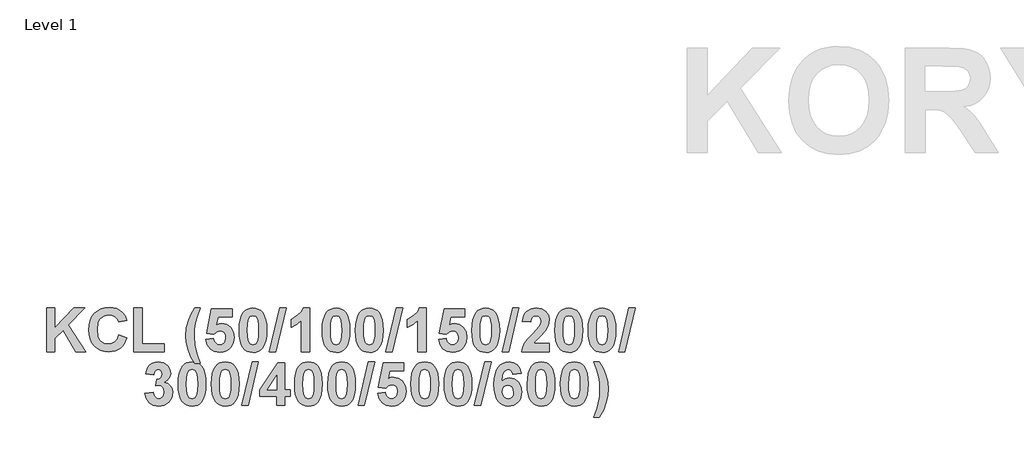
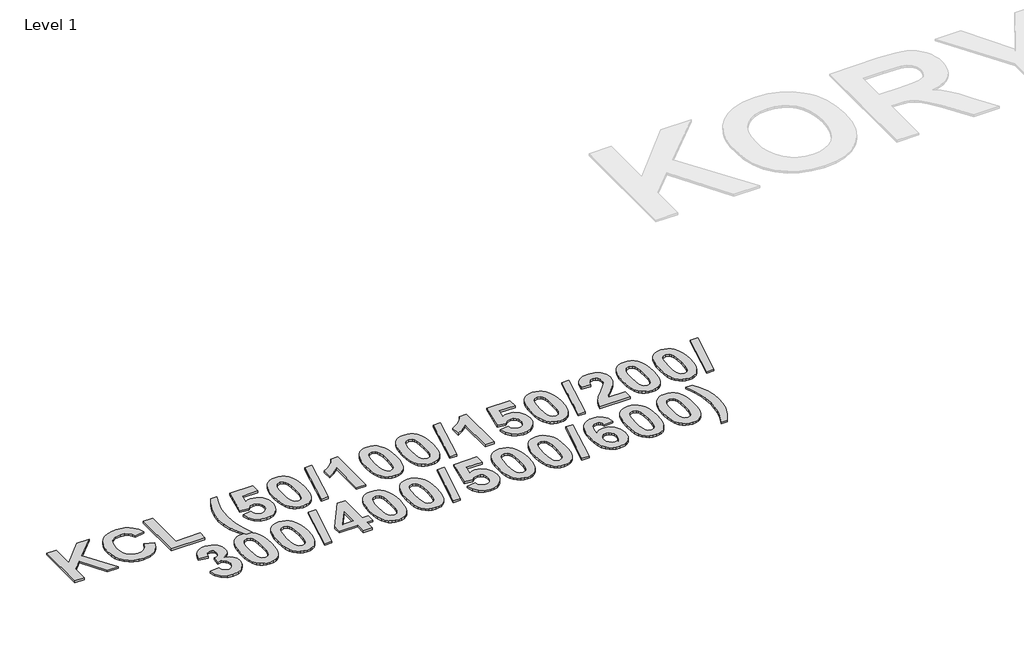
# One storey, part 22 of 42: 1 proxy.
"""IFC4 building model written with IfcOpenShell, lengths in millimetres."""

from ifc_helpers import new_model, si_unit, origin, origin_with_axes, place, context, project, spatial, polyline, outline, extrude, element, save

model = new_model("IFC4")

# Units and contexts
model_context = context("Model", 3, world=origin())
ifc_project = project(units=[si_unit("LENGTHUNIT", "METRE", prefix="MILLI")], contexts=[model_context])

# Site, building, storey
site = spatial("IfcSite", under=ifc_project)
building = spatial("IfcBuilding", under=site)
storey = spatial("IfcBuildingStorey", under=building, Name="Level 1", Elevation=0.0)

# Proxy
placement = place(None, origin())
element("IfcBuildingElementProxy", 1, Name="300mm Arial 2", ObjectType="300mm Arial 2", at=placement, inside=storey, context=model_context, shape_type="SweptSolid", body=[
    extrude(outline(polyline([(-32214.3228423, 21266.2760859), (-32214.3228423, 21521.3409359), (-32165.7390614, 21521.3409359), (-32165.7390614, 21405.0688143), (-32056.299034, 21521.3409359), (-31989.6228554, 21521.3409359), (-32086.157816, 21423.9203335), (-31985.574207, 21266.2760859), (-32042.381805, 21266.2760859), (-32117.7246216, 21391.9739671), (-32165.7390614, 21343.4534463), (-32165.7390614, 21266.2760859), (-32214.3228423, 21266.2760859)])), origin_with_axes(), (0.0, 0.0, 1.0), 10.0),
    extrude(outline(polyline([(-31793.2634074, 21363.4436478), (-31744.6796265, 21347.2490542), (-31760.0043933, 21311.4675423), (-31770.5253439, 21297.5325215), (-31782.952006, 21286.2346574), (-31813.3168691, 21271.2657288), (-31850.8933872, 21266.2760859), (-31875.2208615, 21268.4071616), (-31897.2788785, 21274.8003886), (-31917.0674384, 21285.455767), (-31934.5865411, 21300.3732968), (-31948.9228683, 21318.9875905), (-31959.1631021, 21340.7332606), (-31965.3072424, 21365.6103073), (-31967.3552891, 21393.6187305), (-31965.2894505, 21423.1533044), (-31959.0919345, 21449.192756), (-31948.7627411, 21471.7370854), (-31934.3018705, 21490.7862924), (-31916.4723978, 21505.9252326), (-31896.0373985, 21516.7387614), (-31872.9968725, 21523.2268786), (-31847.3508198, 21525.3895843), (-31824.9251032, 21523.6064394), (-31804.7134912, 21518.2570045), (-31786.7159838, 21509.3412797), (-31770.932581, 21496.8592651), (-31755.6078142, 21476.3471674), (-31744.6796265, 21448.4652645), (-31793.2634074, 21440.3679677), (-31800.7043804, 21457.1714401), (-31813.4117593, 21470.0053393), (-31830.4050121, 21478.1421737), (-31850.7036068, 21480.8544518), (-31878.1505963, 21475.9280691), (-31899.888359, 21461.1489208), (-31908.1497367, 21449.7719816), (-31914.0507209, 21435.3466947), (-31918.7715082, 21397.3510783), (-31914.1930562, 21357.275785), (-31908.4699912, 21342.2910414), (-31900.4577001, 21330.6748997), (-31879.3841689, 21315.7771388), (-31852.7911911, 21310.8112185), (-31832.7140069, 21313.9821326), (-31815.6258639, 21323.4948748), (-31802.2384386, 21339.8238963), (-31793.2634074, 21363.4436478)])), origin_with_axes(), (0.0, 0.0, 1.0), 10.0),
    extrude(outline(polyline([(-31704.1931423, 21266.2760859), (-31704.1931423, 21521.3409359), (-31655.6093614, 21521.3409359), (-31655.6093614, 21310.8112185), (-31526.0526122, 21310.8112185), (-31526.0526122, 21266.2760859), (-31704.1931423, 21266.2760859)])), origin_with_axes(), (0.0, 0.0, 1.0), 10.0),
    extrude(outline(polyline([(-31315.5228947, 21197.4490629), (-31347.912082, 21197.4490629), (-31370.5829316, 21237.1210729), (-31387.1017335, 21278.327141), (-31397.1838169, 21319.6280993), (-31400.5445114, 21359.5847798), (-31396.4326028, 21406.9824333), (-31384.0968772, 21451.7547913), (-31367.9022836, 21488.0344767), (-31347.912082, 21521.3409359), (-31315.5228947, 21521.3409359), (-31333.0854887, 21474.1014328), (-31344.1481042, 21434.4847754), (-31350.0075739, 21397.6041188), (-31351.9607304, 21358.5726177), (-31347.2794807, 21301.92317), (-31334.437674, 21246.8552256), (-31315.5228947, 21197.4490629)])), origin_with_axes(), (0.0, 0.0, 1.0), 10.0),
    extrude(outline(polyline([(-31283.1337074, 21338.0763351), (-31238.5985749, 21343.2004058), (-31234.4550363, 21328.1286795), (-31226.1995891, 21316.5678904), (-31215.0974361, 21309.2139001), (-31202.4137797, 21306.7625701), (-31188.2197877, 21309.364143), (-31176.3822356, 21317.1688617), (-31168.3877365, 21330.2083563), (-31165.7229035, 21348.5142568), (-31168.1979561, 21365.6735675), (-31175.623114, 21377.9302179), (-31187.0178452, 21385.2842082), (-31201.4016176, 21387.7355383), (-31220.2215067, 21382.6747278), (-31236.9538115, 21367.4922962), (-31279.085059, 21373.7550493), (-31250.7445201, 21517.2922875), (-31129.2850678, 21517.2922875), (-31129.2850678, 21468.7085066), (-31211.4599785, 21468.7085066), (-31221.2652989, 21422.3388302), (-31205.7823817, 21429.7877107), (-31189.9515338, 21432.2706708), (-31161.8324054, 21426.5219064), (-31138.3312665, 21409.2756131), (-31122.4371585, 21382.8566007), (-31117.1391225, 21349.589679), (-31121.5515167, 21320.6639839), (-31134.7886992, 21294.9961856), (-31148.0061129, 21280.6598583), (-31163.556244, 21270.4196245), (-31181.4390924, 21264.2754843), (-31201.6546581, 21262.2274375), (-31232.6600301, 21267.3673232), (-31257.3552039, 21282.7869802), (-31274.5698671, 21306.8890903), (-31283.1337074, 21338.0763351)])), origin_with_axes(), (0.0, 0.0, 1.0), 10.0),
    extrude(outline(polyline([(-31007.8256154, 21521.3409359), (-30990.693981, 21519.6961725), (-30975.5471333, 21514.7618823), (-30962.3850722, 21506.5380652), (-30951.2077977, 21495.0247212), (-30940.5524193, 21476.8967398), (-30932.9414348, 21453.6367802), (-30928.374844, 21425.2448425), (-30926.8526471, 21391.7209266), (-30928.3827516, 21358.2286407), (-30932.9730648, 21329.8050729), (-30940.623587, 21306.4502232), (-30951.334318, 21288.1640914), (-30962.4562399, 21276.8168053), (-30975.5787634, 21268.711601), (-30990.7018885, 21263.8484784), (-31007.8256154, 21262.2274375), (-31025.133192, 21264.0066287), (-31040.6813461, 21269.3442023), (-31054.4700779, 21278.2401583), (-31066.4993873, 21290.6944967), (-31076.2552857, 21307.7154258), (-31083.2237845, 21330.311154), (-31087.4048839, 21358.4816813), (-31088.7985836, 21392.2270076), (-31087.2684792, 21425.5532356), (-31082.6781659, 21453.8581907), (-31075.0276438, 21477.1418728), (-31064.3169128, 21495.404282), (-31053.1949909, 21506.7515681), (-31040.0724674, 21514.8567724), (-31024.9493422, 21519.7198951), (-31007.8256154, 21521.3409359)]), holes=[polyline([(-31007.8256154, 21476.8058034), (-31024.020209, 21471.4603223), (-31030.3462222, 21463.9877192), (-31035.0274719, 21452.2608724), (-31038.91797, 21428.1113172), (-31040.2148027, 21391.7209266), (-31039.0603053, 21355.8128945), (-31035.5968131, 21333.2369351), (-31030.3699447, 21319.9839375), (-31023.9253188, 21312.044791), (-31007.8256154, 21306.7625701), (-30991.6310217, 21312.1080512), (-30985.3050086, 21319.5806542), (-30980.6237589, 21331.3075011), (-30976.7332608, 21355.330536), (-30975.4364281, 21391.7209266), (-30976.5909255, 21427.5894211), (-30980.0544177, 21450.173288), (-30985.281286, 21463.4658232), (-30991.7259119, 21471.4603223), (-31007.8256154, 21476.8058034)])]), origin_with_axes(), (0.0, 0.0, 1.0), 10.0),
    extrude(outline(polyline([(-30911.5436953, 21266.2760859), (-30850.8139691, 21521.3409359), (-30813.4904916, 21521.3409359), (-30874.2202178, 21266.2760859), (-30911.5436953, 21266.2760859)])), origin_with_axes(), (0.0, 0.0, 1.0), 10.0),
    extrude(outline(polyline([(-30675.8364455, 21266.2760859), (-30724.4202265, 21266.2760859), (-30724.4202265, 21448.5917848), (-30752.4760948, 21424.7110851), (-30785.1499527, 21407.9787804), (-30785.1499527, 21456.5625613), (-30765.6816472, 21465.6482977), (-30744.6002084, 21480.3800008), (-30726.1440651, 21499.3975778), (-30714.551646, 21521.3409359), (-30675.8364455, 21521.3409359), (-30675.8364455, 21266.2760859)])), origin_with_axes(), (0.0, 0.0, 1.0), 10.0),
    extrude(outline(polyline([(-30521.9878059, 21521.3409359), (-30504.8561715, 21519.6961725), (-30489.7093238, 21514.7618823), (-30476.5472627, 21506.5380652), (-30465.3699882, 21495.0247212), (-30454.7146098, 21476.8967398), (-30447.1036253, 21453.6367802), (-30442.5370345, 21425.2448425), (-30441.0148376, 21391.7209266), (-30442.5449421, 21358.2286407), (-30447.1352553, 21329.8050729), (-30454.7857775, 21306.4502232), (-30465.4965085, 21288.1640914), (-30476.6184304, 21276.8168053), (-30489.7409539, 21268.711601), (-30504.864079, 21263.8484784), (-30521.9878059, 21262.2274375), (-30539.2953825, 21264.0066287), (-30554.8435366, 21269.3442023), (-30568.6322684, 21278.2401583), (-30580.6615778, 21290.6944967), (-30590.4174762, 21307.7154258), (-30597.385975, 21330.311154), (-30601.5670744, 21358.4816813), (-30602.9607741, 21392.2270076), (-30601.4306697, 21425.5532356), (-30596.8403564, 21453.8581907), (-30589.1898343, 21477.1418728), (-30578.4791033, 21495.404282), (-30567.3571814, 21506.7515681), (-30554.2346579, 21514.8567724), (-30539.1115327, 21519.7198951), (-30521.9878059, 21521.3409359)]), holes=[polyline([(-30521.9878059, 21476.8058034), (-30538.1823995, 21471.4603223), (-30544.5084127, 21463.9877192), (-30549.1896624, 21452.2608724), (-30553.0801605, 21428.1113172), (-30554.3769932, 21391.7209266), (-30553.2224958, 21355.8128945), (-30549.7590036, 21333.2369351), (-30544.5321352, 21319.9839375), (-30538.0875093, 21312.044791), (-30521.9878059, 21306.7625701), (-30505.7932122, 21312.1080512), (-30499.4671991, 21319.5806542), (-30494.7859494, 21331.3075011), (-30490.8954513, 21355.330536), (-30489.5986186, 21391.7209266), (-30490.753116, 21427.5894211), (-30494.2166082, 21450.173288), (-30499.4434765, 21463.4658232), (-30505.8881024, 21471.4603223), (-30521.9878059, 21476.8058034)])]), origin_with_axes(), (0.0, 0.0, 1.0), 10.0),
    extrude(outline(polyline([(-30327.6526821, 21521.3409359), (-30310.5210477, 21519.6961725), (-30295.3742, 21514.7618823), (-30282.2121389, 21506.5380652), (-30271.0348644, 21495.0247212), (-30260.379486, 21476.8967398), (-30252.7685015, 21453.6367802), (-30248.2019107, 21425.2448425), (-30246.6797138, 21391.7209266), (-30248.2098182, 21358.2286407), (-30252.8001315, 21329.8050729), (-30260.4506537, 21306.4502232), (-30271.1613847, 21288.1640914), (-30282.2833065, 21276.8168053), (-30295.4058301, 21268.711601), (-30310.5289552, 21263.8484784), (-30327.6526821, 21262.2274375), (-30344.9602587, 21264.0066287), (-30360.5084128, 21269.3442023), (-30374.2971446, 21278.2401583), (-30386.326454, 21290.6944967), (-30396.0823524, 21307.7154258), (-30403.0508512, 21330.311154), (-30407.2319506, 21358.4816813), (-30408.6256503, 21392.2270076), (-30407.0955459, 21425.5532356), (-30402.5052326, 21453.8581907), (-30394.8547105, 21477.1418728), (-30384.1439795, 21495.404282), (-30373.0220576, 21506.7515681), (-30359.8995341, 21514.8567724), (-30344.7764089, 21519.7198951), (-30327.6526821, 21521.3409359)]), holes=[polyline([(-30327.6526821, 21476.8058034), (-30343.8472757, 21471.4603223), (-30350.1732889, 21463.9877192), (-30354.8545386, 21452.2608724), (-30358.7450367, 21428.1113172), (-30360.0418694, 21391.7209266), (-30358.887372, 21355.8128945), (-30355.4238798, 21333.2369351), (-30350.1970114, 21319.9839375), (-30343.7523855, 21312.044791), (-30327.6526821, 21306.7625701), (-30311.4580884, 21312.1080512), (-30305.1320753, 21319.5806542), (-30300.4508255, 21331.3075011), (-30296.5603275, 21355.330536), (-30295.2634948, 21391.7209266), (-30296.4179922, 21427.5894211), (-30299.8814844, 21450.173288), (-30305.1083527, 21463.4658232), (-30311.5529786, 21471.4603223), (-30327.6526821, 21476.8058034)])]), origin_with_axes(), (0.0, 0.0, 1.0), 10.0),
    extrude(outline(polyline([(-30231.370762, 21266.2760859), (-30170.6410358, 21521.3409359), (-30133.3175583, 21521.3409359), (-30194.0472845, 21266.2760859), (-30231.370762, 21266.2760859)])), origin_with_axes(), (0.0, 0.0, 1.0), 10.0),
    extrude(outline(polyline([(-29995.6635122, 21266.2760859), (-30044.2472932, 21266.2760859), (-30044.2472932, 21448.5917848), (-30072.3031615, 21424.7110851), (-30104.9770194, 21407.9787804), (-30104.9770194, 21456.5625613), (-30085.5087139, 21465.6482977), (-30064.4272751, 21480.3800008), (-30045.9711318, 21499.3975778), (-30034.3787127, 21521.3409359), (-29995.6635122, 21521.3409359), (-29995.6635122, 21266.2760859)])), origin_with_axes(), (0.0, 0.0, 1.0), 10.0),
    extrude(outline(polyline([(-29922.7878408, 21338.0763351), (-29878.2527083, 21343.2004058), (-29874.1091697, 21328.1286795), (-29865.8537225, 21316.5678904), (-29854.7515694, 21309.2139001), (-29842.0679131, 21306.7625701), (-29827.8739211, 21309.364143), (-29816.036369, 21317.1688617), (-29808.0418699, 21330.2083563), (-29805.3770369, 21348.5142568), (-29807.8520895, 21365.6735675), (-29815.2772474, 21377.9302179), (-29826.6719786, 21385.2842082), (-29841.055751, 21387.7355383), (-29859.8756401, 21382.6747278), (-29876.6079449, 21367.4922962), (-29918.7391924, 21373.7550493), (-29890.3986535, 21517.2922875), (-29768.9392011, 21517.2922875), (-29768.9392011, 21468.7085066), (-29851.1141119, 21468.7085066), (-29860.9194323, 21422.3388302), (-29845.4365151, 21429.7877107), (-29829.6056672, 21432.2706708), (-29801.4865388, 21426.5219064), (-29777.9853999, 21409.2756131), (-29762.0912919, 21382.8566007), (-29756.7932559, 21349.589679), (-29761.2056501, 21320.6639839), (-29774.4428326, 21294.9961856), (-29787.6602463, 21280.6598583), (-29803.2103774, 21270.4196245), (-29821.0932258, 21264.2754843), (-29841.3087915, 21262.2274375), (-29872.3141634, 21267.3673232), (-29897.0093373, 21282.7869802), (-29914.2240005, 21306.8890903), (-29922.7878408, 21338.0763351)])), origin_with_axes(), (0.0, 0.0, 1.0), 10.0),
    extrude(outline(polyline([(-29647.4797488, 21521.3409359), (-29630.3481144, 21519.6961725), (-29615.2012667, 21514.7618823), (-29602.0392056, 21506.5380652), (-29590.8619311, 21495.0247212), (-29580.2065527, 21476.8967398), (-29572.5955682, 21453.6367802), (-29568.0289774, 21425.2448425), (-29566.5067805, 21391.7209266), (-29568.0368849, 21358.2286407), (-29572.6271982, 21329.8050729), (-29580.2777204, 21306.4502232), (-29590.9884514, 21288.1640914), (-29602.1103732, 21276.8168053), (-29615.2328968, 21268.711601), (-29630.3560219, 21263.8484784), (-29647.4797488, 21262.2274375), (-29664.7873254, 21264.0066287), (-29680.3354795, 21269.3442023), (-29694.1242113, 21278.2401583), (-29706.1535207, 21290.6944967), (-29715.9094191, 21307.7154258), (-29722.8779179, 21330.311154), (-29727.0590172, 21358.4816813), (-29728.452717, 21392.2270076), (-29726.9226126, 21425.5532356), (-29722.3322993, 21453.8581907), (-29714.6817772, 21477.1418728), (-29703.9710461, 21495.404282), (-29692.8491243, 21506.7515681), (-29679.7266008, 21514.8567724), (-29664.6034756, 21519.7198951), (-29647.4797488, 21521.3409359)]), holes=[polyline([(-29647.4797488, 21476.8058034), (-29663.6743424, 21471.4603223), (-29670.0003556, 21463.9877192), (-29674.6816053, 21452.2608724), (-29678.5721034, 21428.1113172), (-29679.8689361, 21391.7209266), (-29678.7144387, 21355.8128945), (-29675.2509465, 21333.2369351), (-29670.0240781, 21319.9839375), (-29663.5794522, 21312.044791), (-29647.4797488, 21306.7625701), (-29631.2851551, 21312.1080512), (-29624.959142, 21319.5806542), (-29620.2778922, 21331.3075011), (-29616.3873942, 21355.330536), (-29615.0905615, 21391.7209266), (-29616.2450589, 21427.5894211), (-29619.7085511, 21450.173288), (-29624.9354194, 21463.4658232), (-29631.3800453, 21471.4603223), (-29647.4797488, 21476.8058034)])]), origin_with_axes(), (0.0, 0.0, 1.0), 10.0),
    extrude(outline(polyline([(-29551.1978287, 21266.2760859), (-29490.4681025, 21521.3409359), (-29453.144625, 21521.3409359), (-29513.8743512, 21266.2760859), (-29551.1978287, 21266.2760859)])), origin_with_axes(), (0.0, 0.0, 1.0), 10.0),
    extrude(outline(polyline([(-29275.0040948, 21314.8598669), (-29275.0040948, 21266.2760859), (-29436.9500313, 21266.2760859), (-29431.7785156, 21290.7814793), (-29421.4512991, 21313.942595), (-29402.2676642, 21340.1243819), (-29370.5268933, 21373.6917891), (-29332.9503752, 21414.4313138), (-29325.9285006, 21429.1392943), (-29323.5878758, 21443.6574945), (-29325.5568474, 21457.8040414), (-29331.4637621, 21468.2340556), (-29340.8341691, 21474.6628664), (-29353.1936173, 21476.8058034), (-29365.4660828, 21474.6944965), (-29374.9551025, 21468.3605758), (-29381.3443758, 21457.13981), (-29384.317602, 21440.3679677), (-29432.9013829, 21444.7961769), (-29424.298005, 21479.9450874), (-29416.6751592, 21493.1842468), (-29406.8382087, 21503.5332089), (-29382.2142026, 21516.8890042), (-29352.118195, 21521.3409359), (-29319.9820483, 21516.3512931), (-29295.5636375, 21501.3823644), (-29280.1439805, 21478.9961854), (-29275.0040948, 21451.7547913), (-29280.6342465, 21419.6186446), (-29298.4736036, 21387.6722782), (-29328.6803163, 21355.7891719), (-29356.419884, 21328.1444945), (-29365.5293429, 21314.8598669), (-29275.0040948, 21314.8598669)])), origin_with_axes(), (0.0, 0.0, 1.0), 10.0),
    extrude(outline(polyline([(-29161.6419393, 21521.3409359), (-29144.5103049, 21519.6961725), (-29129.3634572, 21514.7618823), (-29116.2013961, 21506.5380652), (-29105.0241216, 21495.0247212), (-29094.3687432, 21476.8967398), (-29086.7577587, 21453.6367802), (-29082.1911679, 21425.2448425), (-29080.668971, 21391.7209266), (-29082.1990754, 21358.2286407), (-29086.7893887, 21329.8050729), (-29094.4399109, 21306.4502232), (-29105.1506419, 21288.1640914), (-29116.2725637, 21276.8168053), (-29129.3950873, 21268.711601), (-29144.5182124, 21263.8484784), (-29161.6419393, 21262.2274375), (-29178.9495159, 21264.0066287), (-29194.49767, 21269.3442023), (-29208.2864018, 21278.2401583), (-29220.3157112, 21290.6944967), (-29230.0716096, 21307.7154258), (-29237.0401084, 21330.311154), (-29241.2212077, 21358.4816813), (-29242.6149075, 21392.2270076), (-29241.0848031, 21425.5532356), (-29236.4944898, 21453.8581907), (-29228.8439676, 21477.1418728), (-29218.1332366, 21495.404282), (-29207.0113148, 21506.7515681), (-29193.8887913, 21514.8567724), (-29178.7656661, 21519.7198951), (-29161.6419393, 21521.3409359)]), holes=[polyline([(-29161.6419393, 21476.8058034), (-29177.8365329, 21471.4603223), (-29184.1625461, 21463.9877192), (-29188.8437958, 21452.2608724), (-29192.7342939, 21428.1113172), (-29194.0311266, 21391.7209266), (-29192.8766292, 21355.8128945), (-29189.413137, 21333.2369351), (-29184.1862686, 21319.9839375), (-29177.7416427, 21312.044791), (-29161.6419393, 21306.7625701), (-29145.4473456, 21312.1080512), (-29139.1213325, 21319.5806542), (-29134.4400827, 21331.3075011), (-29130.5495847, 21355.330536), (-29129.252752, 21391.7209266), (-29130.4072494, 21427.5894211), (-29133.8707416, 21450.173288), (-29139.0976099, 21463.4658232), (-29145.5422358, 21471.4603223), (-29161.6419393, 21476.8058034)])]), origin_with_axes(), (0.0, 0.0, 1.0), 10.0),
    extrude(outline(polyline([(-28967.3068155, 21521.3409359), (-28950.1751811, 21519.6961725), (-28935.0283334, 21514.7618823), (-28921.8662723, 21506.5380652), (-28910.6889978, 21495.0247212), (-28900.0336194, 21476.8967398), (-28892.4226349, 21453.6367802), (-28887.8560441, 21425.2448425), (-28886.3338472, 21391.7209266), (-28887.8639516, 21358.2286407), (-28892.4542649, 21329.8050729), (-28900.1047871, 21306.4502232), (-28910.8155181, 21288.1640914), (-28921.9374399, 21276.8168053), (-28935.0599635, 21268.711601), (-28950.1830886, 21263.8484784), (-28967.3068155, 21262.2274375), (-28984.614392, 21264.0066287), (-29000.1625462, 21269.3442023), (-29013.951278, 21278.2401583), (-29025.9805874, 21290.6944967), (-29035.7364858, 21307.7154258), (-29042.7049846, 21330.311154), (-29046.8860839, 21358.4816813), (-29048.2797837, 21392.2270076), (-29046.7496793, 21425.5532356), (-29042.159366, 21453.8581907), (-29034.5088438, 21477.1418728), (-29023.7981128, 21495.404282), (-29012.676191, 21506.7515681), (-28999.5536675, 21514.8567724), (-28984.4305423, 21519.7198951), (-28967.3068155, 21521.3409359)]), holes=[polyline([(-28967.3068155, 21476.8058034), (-28983.5014091, 21471.4603223), (-28989.8274223, 21463.9877192), (-28994.508672, 21452.2608724), (-28998.3991701, 21428.1113172), (-28999.6960028, 21391.7209266), (-28998.5415054, 21355.8128945), (-28995.0780132, 21333.2369351), (-28989.8511448, 21319.9839375), (-28983.4065189, 21312.044791), (-28967.3068155, 21306.7625701), (-28951.1122218, 21312.1080512), (-28944.7862087, 21319.5806542), (-28940.1049589, 21331.3075011), (-28936.2144609, 21355.330536), (-28934.9176282, 21391.7209266), (-28936.0721256, 21427.5894211), (-28939.5356178, 21450.173288), (-28944.7624861, 21463.4658232), (-28951.207112, 21471.4603223), (-28967.3068155, 21476.8058034)])]), origin_with_axes(), (0.0, 0.0, 1.0), 10.0),
    extrude(outline(polyline([(-28871.0248954, 21266.2760859), (-28810.2951692, 21521.3409359), (-28772.9716917, 21521.3409359), (-28833.7014178, 21266.2760859), (-28871.0248954, 21266.2760859)])), origin_with_axes(), (0.0, 0.0, 1.0), 10.0),
    extrude(outline(polyline([(-31639.4147677, 21022.7918795), (-31590.8309868, 21028.4220312), (-31587.082824, 21012.7967787), (-31579.886984, 21001.3466949), (-31570.0342186, 20994.3248203), (-31558.3152792, 20991.9841955), (-31545.7423281, 20994.6648435), (-31535.3518515, 21002.7067877), (-31528.377422, 21015.2876464), (-31526.0526122, 21031.5850377), (-31528.1797341, 21047.0046948), (-31534.5610999, 21058.8501544), (-31544.010582, 21066.3939251), (-31555.342053, 21068.9085153), (-31574.6363931, 21065.3026878), (-31570.3979643, 21105.346351), (-31556.5677181, 21107.0860046), (-31546.4540046, 21113.3171276), (-31540.2624192, 21123.1857081), (-31538.1985574, 21135.8377344), (-31539.7405231, 21146.5840492), (-31544.3664202, 21154.910664), (-31551.5543527, 21160.2482376), (-31560.7824243, 21162.0274288), (-31570.1686463, 21159.963567), (-31578.0840703, 21153.7719816), (-31583.8486498, 21143.610823), (-31586.7823384, 21129.6382415), (-31635.3661193, 21136.9131566), (-31629.8071353, 21158.6509193), (-31621.9866015, 21175.5334668), (-31611.2640092, 21188.4464412), (-31596.9988496, 21198.2754841), (-31580.0055968, 21204.490792), (-31561.098725, 21206.5625613), (-31530.4491913, 21200.8217044), (-31517.6627372, 21193.6456332), (-31506.5684917, 21183.5991336), (-31493.8532053, 21163.577302), (-31489.6147765, 21141.0883253), (-31491.8881874, 21125.1428184), (-31498.7084204, 21110.8974275), (-31510.0754752, 21098.3521527), (-31525.989352, 21087.5069939), (-31506.1256708, 21079.9553157), (-31490.6901987, 21066.6627806), (-31480.7741731, 21048.799701), (-31477.4688312, 21027.5363893), (-31483.3283009, 20996.7682429), (-31500.9067099, 20970.8869416), (-31513.3432564, 20960.6328697), (-31527.2150171, 20953.3085326), (-31559.2641812, 20947.4490629), (-31589.5262466, 20952.6601162), (-31614.1423452, 20968.2932762), (-31631.3570085, 20992.3400337), (-31639.4147677, 21022.7918795)])), origin_with_axes(), (0.0, 0.0, 1.0), 10.0),
    extrude(outline(polyline([(-31364.1066757, 21206.5625613), (-31346.9750413, 21204.9177979), (-31331.8281936, 21199.9835076), (-31318.6661325, 21191.7596906), (-31307.488858, 21180.2463466), (-31296.8334796, 21162.1183652), (-31289.2224951, 21138.8584056), (-31284.6559043, 21110.4664679), (-31283.1337074, 21076.942552), (-31284.6638119, 21043.4502661), (-31289.2541251, 21015.0266983), (-31296.9046473, 20991.6718486), (-31307.6153783, 20973.3857168), (-31318.7373002, 20962.0384307), (-31331.8598237, 20953.9332264), (-31346.9829488, 20949.0701038), (-31364.1066757, 20947.4490629), (-31381.4142523, 20949.2282541), (-31396.9624064, 20954.5658277), (-31410.7511382, 20963.4617837), (-31422.7804476, 20975.9161221), (-31432.536346, 20992.9370512), (-31439.5048448, 21015.5327794), (-31443.6859442, 21043.7033067), (-31445.0796439, 21077.448633), (-31443.5495395, 21110.774861), (-31438.9592262, 21139.0798161), (-31431.3087041, 21162.3634982), (-31420.5979731, 21180.6259074), (-31409.4760512, 21191.9731935), (-31396.3535277, 21200.0783978), (-31381.2304025, 21204.9415205), (-31364.1066757, 21206.5625613)]), holes=[polyline([(-31364.1066757, 21162.0274288), (-31380.3012693, 21156.6819477), (-31386.6272825, 21149.2093446), (-31391.3085322, 21137.4824978), (-31395.1990303, 21113.3329426), (-31396.495863, 21076.942552), (-31395.3413656, 21041.0345199), (-31391.8778734, 21018.4585605), (-31386.651005, 21005.2055629), (-31380.2063791, 20997.2664164), (-31364.1066757, 20991.9841955), (-31347.912082, 20997.3296766), (-31341.5860689, 21004.8022796), (-31336.9048192, 21016.5291265), (-31333.0143211, 21040.5521614), (-31331.7174884, 21076.942552), (-31332.8719858, 21112.8110465), (-31336.335478, 21135.3949134), (-31341.5623463, 21148.6874486), (-31348.0069722, 21156.6819477), (-31364.1066757, 21162.0274288)])]), origin_with_axes(), (0.0, 0.0, 1.0), 10.0),
    extrude(outline(polyline([(-31169.7715519, 21206.5625613), (-31152.6399175, 21204.9177979), (-31137.4930698, 21199.9835076), (-31124.3310087, 21191.7596906), (-31113.1537342, 21180.2463466), (-31102.4983558, 21162.1183652), (-31094.8873713, 21138.8584056), (-31090.3207805, 21110.4664679), (-31088.7985836, 21076.942552), (-31090.3286881, 21043.4502661), (-31094.9190013, 21015.0266983), (-31102.5695235, 20991.6718486), (-31113.2802545, 20973.3857168), (-31124.4021764, 20962.0384307), (-31137.5246999, 20953.9332264), (-31152.647825, 20949.0701038), (-31169.7715519, 20947.4490629), (-31187.0791285, 20949.2282541), (-31202.6272826, 20954.5658277), (-31216.4160144, 20963.4617837), (-31228.4453238, 20975.9161221), (-31238.2012222, 20992.9370512), (-31245.169721, 21015.5327794), (-31249.3508204, 21043.7033067), (-31250.7445201, 21077.448633), (-31249.2144157, 21110.774861), (-31244.6241024, 21139.0798161), (-31236.9735803, 21162.3634982), (-31226.2628493, 21180.6259074), (-31215.1409274, 21191.9731935), (-31202.0184039, 21200.0783978), (-31186.8952787, 21204.9415205), (-31169.7715519, 21206.5625613)]), holes=[polyline([(-31169.7715519, 21162.0274288), (-31185.9661455, 21156.6819477), (-31192.2921587, 21149.2093446), (-31196.9734084, 21137.4824978), (-31200.8639065, 21113.3329426), (-31202.1607392, 21076.942552), (-31201.0062418, 21041.0345199), (-31197.5427496, 21018.4585605), (-31192.3158812, 21005.2055629), (-31185.8712553, 20997.2664164), (-31169.7715519, 20991.9841955), (-31153.5769582, 20997.3296766), (-31147.2509451, 21004.8022796), (-31142.5696954, 21016.5291265), (-31138.6791973, 21040.5521614), (-31137.3823646, 21076.942552), (-31138.536862, 21112.8110465), (-31142.0003542, 21135.3949134), (-31147.2272225, 21148.6874486), (-31153.6718484, 21156.6819477), (-31169.7715519, 21162.0274288)])]), origin_with_axes(), (0.0, 0.0, 1.0), 10.0),
    extrude(outline(polyline([(-31073.4896318, 20951.4977113), (-31012.7599056, 21206.5625613), (-30975.4364281, 21206.5625613), (-31036.1661543, 20951.4977113), (-31073.4896318, 20951.4977113)])), origin_with_axes(), (0.0, 0.0, 1.0), 10.0),
    extrude(outline(polyline([(-30870.1715693, 20951.4977113), (-30870.1715693, 21004.1301407), (-30967.3391313, 21004.1301407), (-30967.3391313, 21044.4268444), (-30863.7190359, 21202.5139129), (-30821.5877884, 21202.5139129), (-30821.5877884, 21044.6166248), (-30789.1986011, 21044.6166248), (-30789.1986011, 21004.1301407), (-30821.5877884, 21004.1301407), (-30821.5877884, 20951.4977113), (-30870.1715693, 20951.4977113)]), holes=[polyline([(-30870.1715693, 21044.6166248), (-30870.1715693, 21127.487397), (-30924.4487621, 21044.6166248), (-30870.1715693, 21044.6166248)])]), origin_with_axes(), (0.0, 0.0, 1.0), 10.0),
    extrude(outline(polyline([(-30683.9337424, 21206.5625613), (-30666.802108, 21204.9177979), (-30651.6552603, 21199.9835076), (-30638.4931992, 21191.7596906), (-30627.3159247, 21180.2463466), (-30616.6605463, 21162.1183652), (-30609.0495618, 21138.8584056), (-30604.482971, 21110.4664679), (-30602.9607741, 21076.942552), (-30604.4908786, 21043.4502661), (-30609.0811918, 21015.0266983), (-30616.731714, 20991.6718486), (-30627.442445, 20973.3857168), (-30638.5643669, 20962.0384307), (-30651.6868904, 20953.9332264), (-30666.8100155, 20949.0701038), (-30683.9337424, 20947.4490629), (-30701.241319, 20949.2282541), (-30716.7894731, 20954.5658277), (-30730.5782049, 20963.4617837), (-30742.6075143, 20975.9161221), (-30752.3634127, 20992.9370512), (-30759.3319115, 21015.5327794), (-30763.5130109, 21043.7033067), (-30764.9067106, 21077.448633), (-30763.3766062, 21110.774861), (-30758.7862929, 21139.0798161), (-30751.1357708, 21162.3634982), (-30740.4250398, 21180.6259074), (-30729.3031179, 21191.9731935), (-30716.1805944, 21200.0783978), (-30701.0574692, 21204.9415205), (-30683.9337424, 21206.5625613)]), holes=[polyline([(-30683.9337424, 21162.0274288), (-30700.128336, 21156.6819477), (-30706.4543492, 21149.2093446), (-30711.1355989, 21137.4824978), (-30715.026097, 21113.3329426), (-30716.3229297, 21076.942552), (-30715.1684323, 21041.0345199), (-30711.7049401, 21018.4585605), (-30706.4780717, 21005.2055629), (-30700.0334458, 20997.2664164), (-30683.9337424, 20991.9841955), (-30667.7391487, 20997.3296766), (-30661.4131356, 21004.8022796), (-30656.7318859, 21016.5291265), (-30652.8413878, 21040.5521614), (-30651.5445551, 21076.942552), (-30652.6990525, 21112.8110465), (-30656.1625447, 21135.3949134), (-30661.389413, 21148.6874486), (-30667.8340389, 21156.6819477), (-30683.9337424, 21162.0274288)])]), origin_with_axes(), (0.0, 0.0, 1.0), 10.0),
    extrude(outline(polyline([(-30489.5986186, 21206.5625613), (-30472.4669842, 21204.9177979), (-30457.3201365, 21199.9835076), (-30444.1580754, 21191.7596906), (-30432.9808009, 21180.2463466), (-30422.3254225, 21162.1183652), (-30414.714438, 21138.8584056), (-30410.1478472, 21110.4664679), (-30408.6256503, 21076.942552), (-30410.1557548, 21043.4502661), (-30414.746068, 21015.0266983), (-30422.3965902, 20991.6718486), (-30433.1073212, 20973.3857168), (-30444.2292431, 20962.0384307), (-30457.3517666, 20953.9332264), (-30472.4748917, 20949.0701038), (-30489.5986186, 20947.4490629), (-30506.9061952, 20949.2282541), (-30522.4543493, 20954.5658277), (-30536.2430811, 20963.4617837), (-30548.2723905, 20975.9161221), (-30558.0282889, 20992.9370512), (-30564.9967877, 21015.5327794), (-30569.1778871, 21043.7033067), (-30570.5715868, 21077.448633), (-30569.0414824, 21110.774861), (-30564.4511691, 21139.0798161), (-30556.800647, 21162.3634982), (-30546.089916, 21180.6259074), (-30534.9679941, 21191.9731935), (-30521.8454706, 21200.0783978), (-30506.7223454, 21204.9415205), (-30489.5986186, 21206.5625613)]), holes=[polyline([(-30489.5986186, 21162.0274288), (-30505.7932122, 21156.6819477), (-30512.1192254, 21149.2093446), (-30516.8004751, 21137.4824978), (-30520.6909732, 21113.3329426), (-30521.9878059, 21076.942552), (-30520.8333085, 21041.0345199), (-30517.3698163, 21018.4585605), (-30512.1429479, 21005.2055629), (-30505.698322, 20997.2664164), (-30489.5986186, 20991.9841955), (-30473.4040249, 20997.3296766), (-30467.0780118, 21004.8022796), (-30462.3967621, 21016.5291265), (-30458.506264, 21040.5521614), (-30457.2094313, 21076.942552), (-30458.3639287, 21112.8110465), (-30461.8274209, 21135.3949134), (-30467.0542892, 21148.6874486), (-30473.4989151, 21156.6819477), (-30489.5986186, 21162.0274288)])]), origin_with_axes(), (0.0, 0.0, 1.0), 10.0),
    extrude(outline(polyline([(-30393.3166985, 20951.4977113), (-30332.5869723, 21206.5625613), (-30295.2634948, 21206.5625613), (-30355.993221, 20951.4977113), (-30393.3166985, 20951.4977113)])), origin_with_axes(), (0.0, 0.0, 1.0), 10.0),
    extrude(outline(polyline([(-30279.0689011, 21023.2979605), (-30234.5337686, 21028.4220312), (-30230.39023, 21013.3503049), (-30222.1347828, 21001.7895158), (-30211.0326298, 20994.4355255), (-30198.3489734, 20991.9841955), (-30184.1549814, 20994.5857684), (-30172.3174293, 21002.3904871), (-30164.3229302, 21015.4299817), (-30161.6580972, 21033.7358822), (-30164.1331498, 21050.8951929), (-30171.5583077, 21063.1518433), (-30182.9530389, 21070.5058336), (-30197.3368113, 21072.9571637), (-30216.1567004, 21067.8963532), (-30232.8890052, 21052.7139216), (-30275.0202527, 21058.9766747), (-30246.6797138, 21202.5139129), (-30125.2202614, 21202.5139129), (-30125.2202614, 21153.930132), (-30207.3951722, 21153.930132), (-30217.2004926, 21107.5604556), (-30201.7175754, 21115.0093361), (-30185.8867275, 21117.4922962), (-30157.7675991, 21111.7435318), (-30134.2664602, 21094.4972385), (-30118.3723522, 21068.0782261), (-30113.0743162, 21034.8113044), (-30117.4867104, 21005.8856093), (-30130.7238929, 20980.217811), (-30143.9413066, 20965.8814837), (-30159.4914377, 20955.6412499), (-30177.3742861, 20949.4971097), (-30197.5898518, 20947.4490629), (-30228.5952237, 20952.5889486), (-30253.2903976, 20968.0086056), (-30270.5050608, 20992.1107157), (-30279.0689011, 21023.2979605)])), origin_with_axes(), (0.0, 0.0, 1.0), 10.0),
    extrude(outline(polyline([(-30003.7608091, 21206.5625613), (-29986.6291747, 21204.9177979), (-29971.482327, 21199.9835076), (-29958.3202659, 21191.7596906), (-29947.1429914, 21180.2463466), (-29936.487613, 21162.1183652), (-29928.8766285, 21138.8584056), (-29924.3100377, 21110.4664679), (-29922.7878408, 21076.942552), (-29924.3179452, 21043.4502661), (-29928.9082585, 21015.0266983), (-29936.5587807, 20991.6718486), (-29947.2695117, 20973.3857168), (-29958.3914335, 20962.0384307), (-29971.5139571, 20953.9332264), (-29986.6370822, 20949.0701038), (-30003.7608091, 20947.4490629), (-30021.0683857, 20949.2282541), (-30036.6165398, 20954.5658277), (-30050.4052716, 20963.4617837), (-30062.434581, 20975.9161221), (-30072.1904794, 20992.9370512), (-30079.1589782, 21015.5327794), (-30083.3400775, 21043.7033067), (-30084.7337773, 21077.448633), (-30083.2036729, 21110.774861), (-30078.6133596, 21139.0798161), (-30070.9628375, 21162.3634982), (-30060.2521064, 21180.6259074), (-30049.1301846, 21191.9731935), (-30036.0076611, 21200.0783978), (-30020.8845359, 21204.9415205), (-30003.7608091, 21206.5625613)]), holes=[polyline([(-30003.7608091, 21162.0274288), (-30019.9554027, 21156.6819477), (-30026.2814159, 21149.2093446), (-30030.9626656, 21137.4824978), (-30034.8531637, 21113.3329426), (-30036.1499964, 21076.942552), (-30034.995499, 21041.0345199), (-30031.5320068, 21018.4585605), (-30026.3051384, 21005.2055629), (-30019.8605125, 20997.2664164), (-30003.7608091, 20991.9841955), (-29987.5662154, 20997.3296766), (-29981.2402023, 21004.8022796), (-29976.5589525, 21016.5291265), (-29972.6684545, 21040.5521614), (-29971.3716218, 21076.942552), (-29972.5261192, 21112.8110465), (-29975.9896114, 21135.3949134), (-29981.2164797, 21148.6874486), (-29987.6611056, 21156.6819477), (-30003.7608091, 21162.0274288)])]), origin_with_axes(), (0.0, 0.0, 1.0), 10.0),
    extrude(outline(polyline([(-29809.4256853, 21206.5625613), (-29792.2940509, 21204.9177979), (-29777.1472032, 21199.9835076), (-29763.9851421, 21191.7596906), (-29752.8078676, 21180.2463466), (-29742.1524892, 21162.1183652), (-29734.5415047, 21138.8584056), (-29729.9749139, 21110.4664679), (-29728.452717, 21076.942552), (-29729.9828214, 21043.4502661), (-29734.5731347, 21015.0266983), (-29742.2236569, 20991.6718486), (-29752.9343879, 20973.3857168), (-29764.0563097, 20962.0384307), (-29777.1788333, 20953.9332264), (-29792.3019584, 20949.0701038), (-29809.4256853, 20947.4490629), (-29826.7332619, 20949.2282541), (-29842.281416, 20954.5658277), (-29856.0701478, 20963.4617837), (-29868.0994572, 20975.9161221), (-29877.8553556, 20992.9370512), (-29884.8238544, 21015.5327794), (-29889.0049537, 21043.7033067), (-29890.3986535, 21077.448633), (-29888.8685491, 21110.774861), (-29884.2782358, 21139.0798161), (-29876.6277137, 21162.3634982), (-29865.9169826, 21180.6259074), (-29854.7950608, 21191.9731935), (-29841.6725373, 21200.0783978), (-29826.5494121, 21204.9415205), (-29809.4256853, 21206.5625613)]), holes=[polyline([(-29809.4256853, 21162.0274288), (-29825.6202789, 21156.6819477), (-29831.9462921, 21149.2093446), (-29836.6275418, 21137.4824978), (-29840.5180399, 21113.3329426), (-29841.8148726, 21076.942552), (-29840.6603752, 21041.0345199), (-29837.196883, 21018.4585605), (-29831.9700146, 21005.2055629), (-29825.5253887, 20997.2664164), (-29809.4256853, 20991.9841955), (-29793.2310916, 20997.3296766), (-29786.9050785, 21004.8022796), (-29782.2238287, 21016.5291265), (-29778.3333307, 21040.5521614), (-29777.036498, 21076.942552), (-29778.1909954, 21112.8110465), (-29781.6544876, 21135.3949134), (-29786.8813559, 21148.6874486), (-29793.3259818, 21156.6819477), (-29809.4256853, 21162.0274288)])]), origin_with_axes(), (0.0, 0.0, 1.0), 10.0),
    extrude(outline(polyline([(-29713.1437652, 20951.4977113), (-29652.414039, 21206.5625613), (-29615.0905615, 21206.5625613), (-29675.8202877, 20951.4977113), (-29713.1437652, 20951.4977113)])), origin_with_axes(), (0.0, 0.0, 1.0), 10.0),
    extrude(outline(polyline([(-29440.9986797, 21138.8742207), (-29489.5824607, 21133.6868899), (-29492.5556869, 21146.2835636), (-29498.1858386, 21155.1004444), (-29506.1882452, 21160.2956827), (-29516.2782361, 21162.0274288), (-29529.8791644, 21158.6667343), (-29541.2027279, 21148.5846508), (-29549.5056202, 21127.7483451), (-29554.0445346, 21092.1249835), (-29534.022703, 21108.1139818), (-29509.6359223, 21113.4436478), (-29481.809372, 21107.750236), (-29458.3003257, 21090.6700005), (-29442.2876049, 21064.5910113), (-29436.9500313, 21031.9013384), (-29442.4062177, 20997.4641043), (-29449.2264506, 20983.0744013), (-29458.7747767, 20970.570641), (-29470.4660397, 20960.4549506), (-29483.7150835, 20953.2294574), (-29514.8865133, 20947.4490629), (-29532.4174772, 20949.3152368), (-29548.3194927, 20954.9137584), (-29562.5925599, 20964.2446278), (-29575.2366787, 20977.307845), (-29585.5876177, 20994.6213522), (-29592.9811455, 21016.7030918), (-29597.4172622, 21043.5530639), (-29598.8959678, 21075.1712683), (-29597.3520252, 21107.6237157), (-29592.7201975, 21135.205133), (-29585.0004846, 21157.9155202), (-29574.1928865, 21175.7548773), (-29560.9181433, 21189.2332391), (-29545.796995, 21198.8606403), (-29528.8294416, 21204.6370811), (-29510.0154831, 21206.5625613), (-29484.6956155, 21202.2292423), (-29464.1518878, 21189.2292853), (-29449.2857569, 21167.9738811), (-29440.9986797, 21138.8742207)]), holes=[polyline([(-29550.3121869, 21032.9767606), (-29547.6868914, 21015.5565019), (-29539.811005, 21002.6435276), (-29528.5665167, 20994.6490285), (-29515.8354152, 20991.9841955), (-29503.9425105, 20994.16667), (-29494.2004503, 21000.7140936), (-29487.7004718, 21012.2432526), (-29485.5338123, 21029.3709331), (-29487.8665296, 21047.1233075), (-29494.8646817, 21059.3878655), (-29505.357956, 21066.5283528), (-29518.1760401, 21068.9085153), (-29530.6145634, 21066.6311506), (-29540.9813175, 21059.7990564), (-29547.9794695, 21048.538753), (-29550.3121869, 21032.9767606)])]), origin_with_axes(), (0.0, 0.0, 1.0), 10.0),
    extrude(outline(polyline([(-29323.5878758, 21206.5625613), (-29306.4562414, 21204.9177979), (-29291.3093937, 21199.9835076), (-29278.1473326, 21191.7596906), (-29266.9700581, 21180.2463466), (-29256.3146797, 21162.1183652), (-29248.7036952, 21138.8584056), (-29244.1371044, 21110.4664679), (-29242.6149075, 21076.942552), (-29244.1450119, 21043.4502661), (-29248.7353252, 21015.0266983), (-29256.3858474, 20991.6718486), (-29267.0965784, 20973.3857168), (-29278.2185002, 20962.0384307), (-29291.3410238, 20953.9332264), (-29306.4641489, 20949.0701038), (-29323.5878758, 20947.4490629), (-29340.8954524, 20949.2282541), (-29356.4436065, 20954.5658277), (-29370.2323383, 20963.4617837), (-29382.2616477, 20975.9161221), (-29392.0175461, 20992.9370512), (-29398.9860449, 21015.5327794), (-29403.1671442, 21043.7033067), (-29404.560844, 21077.448633), (-29403.0307396, 21110.774861), (-29398.4404263, 21139.0798161), (-29390.7899042, 21162.3634982), (-29380.0791731, 21180.6259074), (-29368.9572513, 21191.9731935), (-29355.8347278, 21200.0783978), (-29340.7116026, 21204.9415205), (-29323.5878758, 21206.5625613)]), holes=[polyline([(-29323.5878758, 21162.0274288), (-29339.7824694, 21156.6819477), (-29346.1084826, 21149.2093446), (-29350.7897323, 21137.4824978), (-29354.6802304, 21113.3329426), (-29355.9770631, 21076.942552), (-29354.8225657, 21041.0345199), (-29351.3590735, 21018.4585605), (-29346.1322051, 21005.2055629), (-29339.6875792, 20997.2664164), (-29323.5878758, 20991.9841955), (-29307.3932821, 20997.3296766), (-29301.067269, 21004.8022796), (-29296.3860192, 21016.5291265), (-29292.4955212, 21040.5521614), (-29291.1986885, 21076.942552), (-29292.3531859, 21112.8110465), (-29295.8166781, 21135.3949134), (-29301.0435464, 21148.6874486), (-29307.4881723, 21156.6819477), (-29323.5878758, 21162.0274288)])]), origin_with_axes(), (0.0, 0.0, 1.0), 10.0),
    extrude(outline(polyline([(-29129.252752, 21206.5625613), (-29112.1211176, 21204.9177979), (-29096.9742699, 21199.9835076), (-29083.8122088, 21191.7596906), (-29072.6349343, 21180.2463466), (-29061.9795559, 21162.1183652), (-29054.3685714, 21138.8584056), (-29049.8019806, 21110.4664679), (-29048.2797837, 21076.942552), (-29049.8098881, 21043.4502661), (-29054.4002014, 21015.0266983), (-29062.0507236, 20991.6718486), (-29072.7614546, 20973.3857168), (-29083.8833764, 20962.0384307), (-29097.0059, 20953.9332264), (-29112.1290251, 20949.0701038), (-29129.252752, 20947.4490629), (-29146.5603286, 20949.2282541), (-29162.1084827, 20954.5658277), (-29175.8972145, 20963.4617837), (-29187.9265239, 20975.9161221), (-29197.6824223, 20992.9370512), (-29204.6509211, 21015.5327794), (-29208.8320204, 21043.7033067), (-29210.2257202, 21077.448633), (-29208.6956158, 21110.774861), (-29204.1053025, 21139.0798161), (-29196.4547803, 21162.3634982), (-29185.7440493, 21180.6259074), (-29174.6221275, 21191.9731935), (-29161.499604, 21200.0783978), (-29146.3764788, 21204.9415205), (-29129.252752, 21206.5625613)]), holes=[polyline([(-29129.252752, 21162.0274288), (-29145.4473456, 21156.6819477), (-29151.7733588, 21149.2093446), (-29156.4546085, 21137.4824978), (-29160.3451066, 21113.3329426), (-29161.6419393, 21076.942552), (-29160.4874419, 21041.0345199), (-29157.0239497, 21018.4585605), (-29151.7970813, 21005.2055629), (-29145.3524554, 20997.2664164), (-29129.252752, 20991.9841955), (-29113.0581583, 20997.3296766), (-29106.7321452, 21004.8022796), (-29102.0508954, 21016.5291265), (-29098.1603974, 21040.5521614), (-29096.8635647, 21076.942552), (-29098.0180621, 21112.8110465), (-29101.4815543, 21135.3949134), (-29106.7084226, 21148.6874486), (-29113.1530485, 21156.6819477), (-29129.252752, 21162.0274288)])]), origin_with_axes(), (0.0, 0.0, 1.0), 10.0),
    extrude(outline(polyline([(-29015.8905964, 20882.6706883), (-28997.893089, 20928.6608039), (-28988.2142889, 20965.5730906), (-28981.6036052, 21005.2688231), (-28979.4527607, 21043.7942431), (-28981.3980097, 21082.8257442), (-28987.2337569, 21119.7064008), (-28998.2884648, 21159.3230582), (-29015.8905964, 21206.5625613), (-28983.5014091, 21206.5625613), (-28961.3050105, 21169.2232687), (-28944.6913185, 21129.7015016), (-28934.3245644, 21088.8038266), (-28930.8689797, 21047.3368105), (-28933.6366105, 21010.8357146), (-28941.9395028, 20971.8042135), (-28958.6559925, 20926.9369653), (-28983.5014091, 20882.6706883), (-29015.8905964, 20882.6706883)])), origin_with_axes(), (0.0, 0.0, 1.0), 10.0),
])

save(model, "model.ifc")
